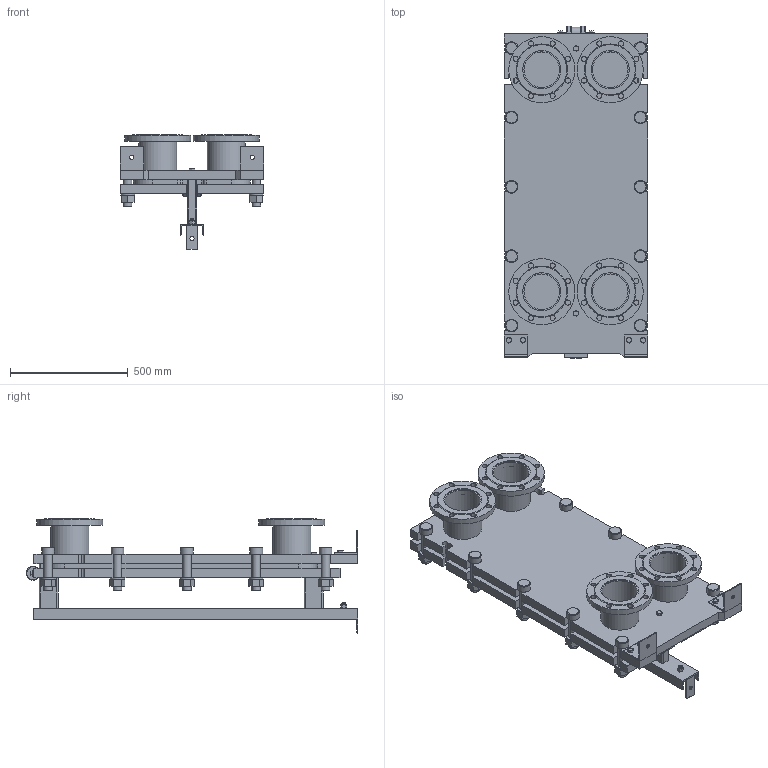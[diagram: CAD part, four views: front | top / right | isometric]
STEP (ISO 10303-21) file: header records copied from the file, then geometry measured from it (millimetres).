
FILE_DESCRIPTION(/* description */ (''),/* implementation_level */ '2;1');
FILE_NAME(/* name */ 'C:\Users\zhuro\Desktop\ENCO\TO\ЭН-041\ЭН-0,5-041-6-1.stp',/* time_stamp */ '2022-06-06T10:48:11+03:00',/* author */ ('zhuro'),/* organization */ (''),/* preprocessor_version */ 'ST-DEVELOPER v18.1',/* originating_system */ 'Autodesk Inventor 2022',/* authorisation */ '');
FILE_SCHEMA (('AUTOMOTIVE_DESIGN { 1 0 10303 214 3 1 1 }'));
Length unit declared in the file: millimetre
Products named in the file (1): ЭН-0,5-041-6-1
Bounding box: 610 x 1406.5 x 485 mm (x, y, z)
Volume: 85509983.1 mm3; surface area: 6951888.2 mm2
Topology: 52 solids, 52 shells, 711 faces, 1696 edges, 1094 vertices
Faces by surface type: plane 487, cylinder 177, cone 41, torus 6
Full cylindrical faces by diameter (mm): 8 x4, 10 x2, 16 x8, 18 x3, 22 x32, 36 x24, 50 x1, 54 x10, 60 x12, 151 x4, 161 x8, 280 x4
Entity records: 22667 total; most frequent: CARTESIAN_POINT 5230, DIRECTION 3644, ORIENTED_EDGE 3392, EDGE_CURVE 1696, AXIS2_PLACEMENT_3D 1272, LINE 1100, VECTOR 1100, VERTEX_POINT 1094
